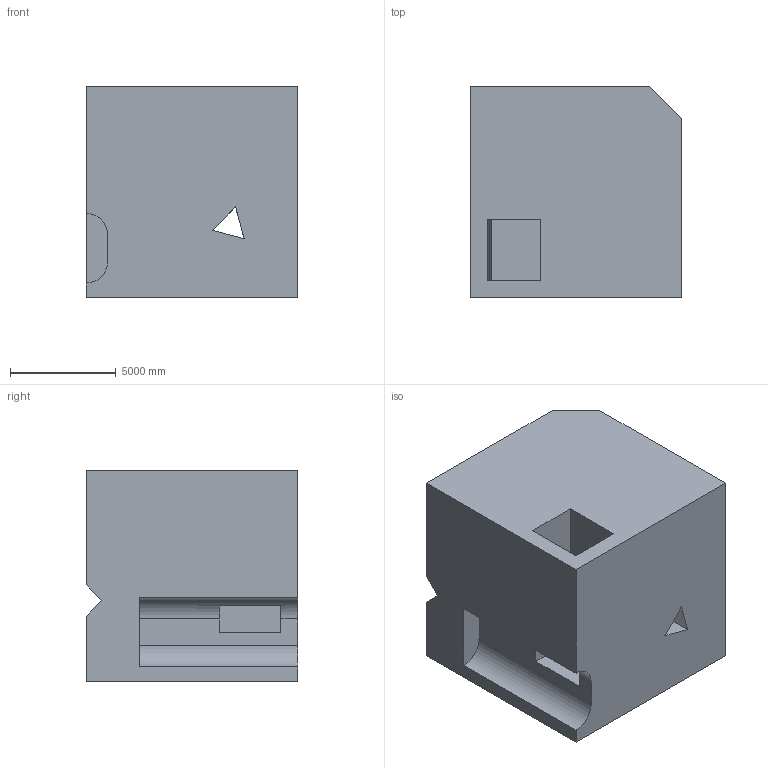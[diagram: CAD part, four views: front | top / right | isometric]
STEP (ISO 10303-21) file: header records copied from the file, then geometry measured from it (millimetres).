
FILE_DESCRIPTION (( 'STEP AP203' ), '1' );
FILE_NAME ('1583.STEP', '2022-08-18T15:57:25', ( 'user' ), ( '' ), 'SwSTEP 2.0', 'SolidWorks 2021', '' );
FILE_SCHEMA (( 'CONFIG_CONTROL_DESIGN' ));
Length unit declared in the file: centimetre
Products named in the file (1): 1583
Bounding box: 10000 x 10000 x 10000 mm (x, y, z)
Volume: 892044576565 mm3; surface area: 719072271.1 mm2
Topology: 1 solids, 1 shells, 25 faces, 75 edges, 50 vertices
Faces by surface type: plane 23, cylinder 2
Entity records: 920 total; most frequent: CARTESIAN_POINT 151, ORIENTED_EDGE 150, DIRECTION 133, EDGE_CURVE 75, LINE 69, VECTOR 69, VERTEX_POINT 50, AXIS2_PLACEMENT_3D 32
